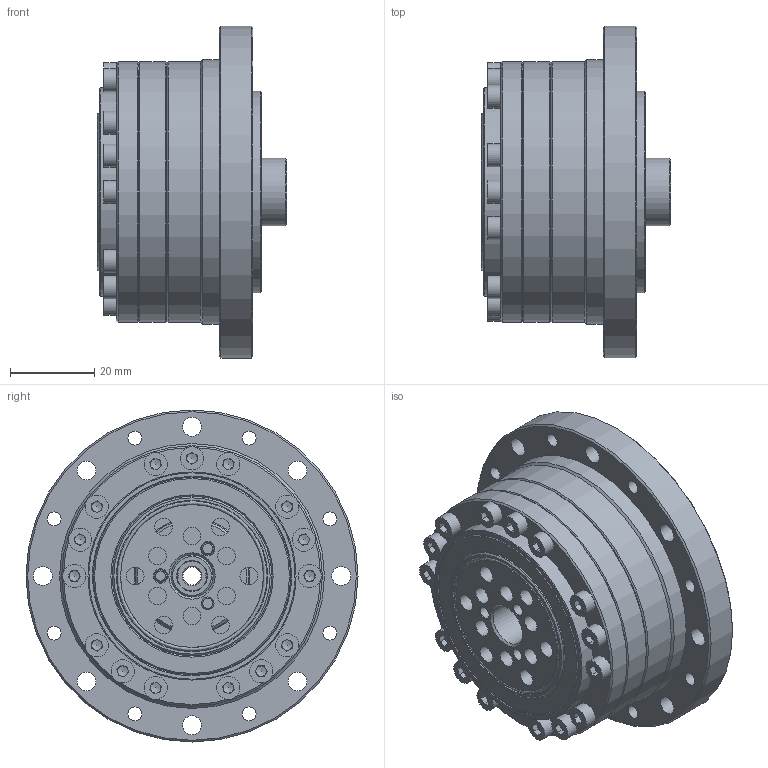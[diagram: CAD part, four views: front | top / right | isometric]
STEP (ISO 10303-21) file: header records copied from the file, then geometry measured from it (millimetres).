
FILE_DESCRIPTION (( 'STEP AP203' ), '1' );
FILE_NAME ('FCG-17-XXX-AJ(1).STEP', '2025-05-12T09:14:37', ( '微软用户' ), ( '微软中国' ), 'SwSTEP 2.0', 'SolidWorks 2016', '' );
FILE_SCHEMA (( 'CONFIG_CONTROL_DESIGN' ));
Length unit declared in the file: millimetre
Products named in the file (1): FCG-17-XXX-AJ(1)
Bounding box: 45 x 79 x 79 mm (x, y, z)
Volume: 91973.8 mm3; surface area: 71153 mm2
Topology: 65 solids, 65 shells, 895 faces, 2098 edges, 1339 vertices
Faces by surface type: plane 413, cylinder 250, cone 178, bspline 42, torus 12
Full cylindrical faces by diameter (mm): 2.05 x2, 2.5 x17, 2.9 x2, 3 x24, 3.3 x10, 3.4 x20, 3.5 x10, 4.2 x12, 4.3 x1, 4.5 x8, 4.7 x2, 5 x6, 5.3 x6, 5.5 x21, 7 x1, 8.5 x6, 10 x3, 16 x2, 18 x1, 27 x1, 29 x1, 29.1 x1, 30.3 x2, 32.46 x2, 33 x1, 33.3 x1, 34 x1, 36 x1, 37.2 x1, 38 x3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
Entity records: 23889 total; most frequent: CARTESIAN_POINT 5511, DIRECTION 4000, ORIENTED_EDGE 2980, AXIS2_PLACEMENT_3D 1694, EDGE_LOOP 1510, EDGE_CURVE 1490, VERTEX_POINT 1156, FACE_OUTER_BOUND 1098
